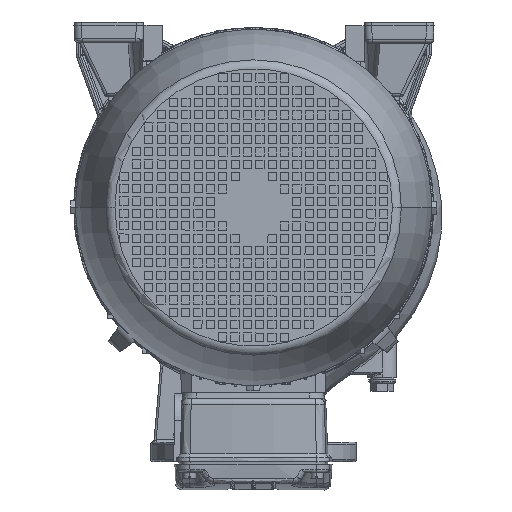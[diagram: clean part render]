
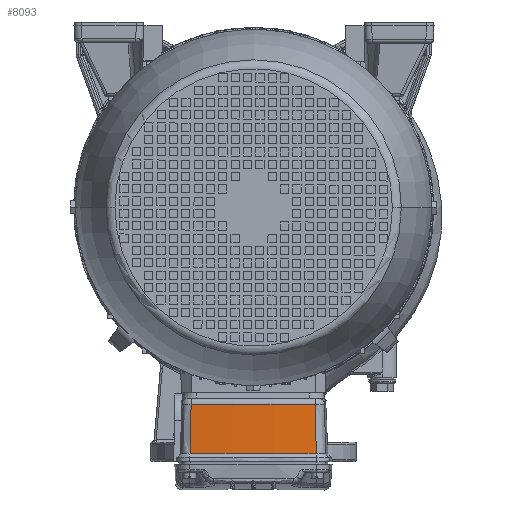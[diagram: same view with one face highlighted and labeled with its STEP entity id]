
A CAD part, front view. The second image highlights one B-rep face of the part: STEP entity #8093.
In plain terms, the highlighted conical face has half-angle 1 degrees and reference radius 596 mm.
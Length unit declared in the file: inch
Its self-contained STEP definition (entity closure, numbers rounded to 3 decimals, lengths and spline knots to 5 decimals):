
#487 = DIRECTION ( 'NONE',  ( 0., 1., 0. ) ) ;
#7605 = ORIENTED_EDGE ( 'NONE', *, *, #167585, .F. ) ;
#8093 = ADVANCED_FACE ( 'NONE', ( #51409 ), #155902, .T. ) ;
#14091 = CARTESIAN_POINT ( 'NONE',  ( 2.41105, 9.4207, 0.01746 ) ) ;
#20805 = AXIS2_PLACEMENT_3D ( 'NONE', #132678, #487, #200962 ) ;
#25299 = DIRECTION ( 'NONE',  ( 0., 0., 1. ) ) ;
#30881 = CIRCLE ( 'NONE', #138233, 23.45927 ) ;
#31464 = B_SPLINE_CURVE_WITH_KNOTS ( 'NONE', 3,
 ( #14091, #48743, #80177, #212403, #130013, #113780, #179930 ),
 .UNSPECIFIED., .F., .F.,
 ( 4, 3, 4 ),
 ( 0.00772, 0.03064, 0.05562 ),
 .UNSPECIFIED. ) ;
#31981 = ORIENTED_EDGE ( 'NONE', *, *, #85294, .T. ) ;
#33421 = AXIS2_PLACEMENT_3D ( 'NONE', #41567, #107651, #25299 ) ;
#36209 = EDGE_CURVE ( 'NONE', #83742, #163951, #214078, .T. ) ;
#41070 = ORIENTED_EDGE ( 'NONE', *, *, #36209, .T. ) ;
#41567 = CARTESIAN_POINT ( 'NONE',  ( 0., 7.53525, 23.3525 ) ) ;
#43356 = CARTESIAN_POINT ( 'NONE',  ( -2.39608, 8.51846, 0.03175 ) ) ;
#45476 = CARTESIAN_POINT ( 'NONE',  ( -2.39064, 8.19072, 0.03694 ) ) ;
#47819 = VERTEX_POINT ( 'NONE', #133038 ) ;
#48743 = CARTESIAN_POINT ( 'NONE',  ( 2.40606, 9.11995, 0.02222 ) ) ;
#50610 = CARTESIAN_POINT ( 'NONE',  ( 0., 9.4207, 23.3525 ) ) ;
#51409 = FACE_OUTER_BOUND ( 'NONE', #99448, .T. ) ;
#80177 = CARTESIAN_POINT ( 'NONE',  ( 2.40107, 8.81921, 0.02698 ) ) ;
#82055 = DIRECTION ( 'NONE',  ( 0., 1., 0. ) ) ;
#83742 = VERTEX_POINT ( 'NONE', #94557 ) ;
#85294 = EDGE_CURVE ( 'NONE', #47819, #83742, #164969, .T. ) ;
#94557 = CARTESIAN_POINT ( 'NONE',  ( -2.37976, 7.53525, 0.04733 ) ) ;
#99448 = EDGE_LOOP ( 'NONE', ( #169441, #31981, #41070, #7605 ) ) ;
#107651 = DIRECTION ( 'NONE',  ( 0., 1., 0. ) ) ;
#113780 = CARTESIAN_POINT ( 'NONE',  ( 2.3852, 7.86299, 0.04213 ) ) ;
#114939 = CARTESIAN_POINT ( 'NONE',  ( -2.41105, 9.4207, 0.01746 ) ) ;
#126777 = CARTESIAN_POINT ( 'NONE',  ( -2.41105, 9.4207, 0.01746 ) ) ;
#127839 = CARTESIAN_POINT ( 'NONE',  ( -2.3852, 7.86299, 0.04213 ) ) ;
#130013 = CARTESIAN_POINT ( 'NONE',  ( 2.39064, 8.19072, 0.03694 ) ) ;
#132678 = CARTESIAN_POINT ( 'NONE',  ( 0., 9.72441, 23.3525 ) ) ;
#133038 = CARTESIAN_POINT ( 'NONE',  ( 2.37976, 7.53525, 0.04733 ) ) ;
#138233 = AXIS2_PLACEMENT_3D ( 'NONE', #50610, #82055, #149213 ) ;
#140060 = CARTESIAN_POINT ( 'NONE',  ( 2.41105, 9.4207, 0.01746 ) ) ;
#149213 = DIRECTION ( 'NONE',  ( 0., 0., 1. ) ) ;
#155902 = CONICAL_SURFACE ( 'NONE', #20805, 23.46457, 0.017 ) ;
#158278 = CARTESIAN_POINT ( 'NONE',  ( -2.40606, 9.11995, 0.02222 ) ) ;
#163951 = VERTEX_POINT ( 'NONE', #114939 ) ;
#164969 = CIRCLE ( 'NONE', #33421, 23.42635 ) ;
#167585 = EDGE_CURVE ( 'NONE', #189629, #163951, #30881, .T. ) ;
#169441 = ORIENTED_EDGE ( 'NONE', *, *, #212894, .T. ) ;
#179930 = CARTESIAN_POINT ( 'NONE',  ( 2.37976, 7.53525, 0.04733 ) ) ;
#189629 = VERTEX_POINT ( 'NONE', #140060 ) ;
#200962 = DIRECTION ( 'NONE',  ( 0., 0., 1. ) ) ;
#207046 = CARTESIAN_POINT ( 'NONE',  ( -2.37976, 7.53525, 0.04733 ) ) ;
#209168 = CARTESIAN_POINT ( 'NONE',  ( -2.40107, 8.81921, 0.02698 ) ) ;
#212403 = CARTESIAN_POINT ( 'NONE',  ( 2.39608, 8.51846, 0.03175 ) ) ;
#212894 = EDGE_CURVE ( 'NONE', #189629, #47819, #31464, .T. ) ;
#214078 = B_SPLINE_CURVE_WITH_KNOTS ( 'NONE', 3,
 ( #207046, #127839, #45476, #43356, #209168, #158278, #126777 ),
 .UNSPECIFIED., .F., .F.,
 ( 4, 3, 4 ),
 ( 0.0059, 0.03088, 0.0538 ),
 .UNSPECIFIED. ) ;
